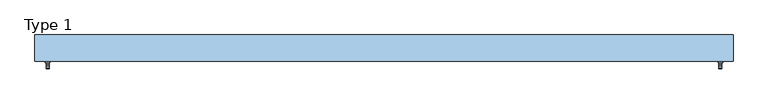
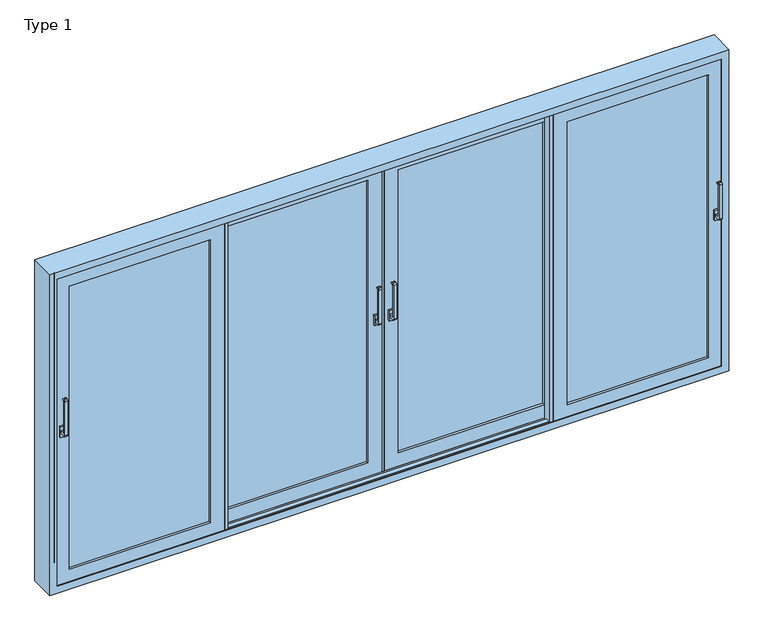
"""IFC4 building model written with IfcOpenShell, lengths in millimetres: window geometry, ETEM_E50_Quadruple_Fly Screen_Lift_Sliding : Type 1."""

from ifc_helpers import new_model, si_unit, point, frame, frame_2d, origin, place, context, project, spatial, polyline, circle_curve, ellipse_curve, trimmed, segment, composite_curve, outline, extrude, faceted_brep, source, transform, mapped, element, save
from ifc_brep_helpers import plane_surface, cylinder_surface, revolved_surface, advanced_brep


def type_1_08f03a68(model_context):
    return source(origin(), model_context, "Body", "SolidModel", [
        extrude(outline(composite_curve([segment(polyline([(-69.2, 1090.0), (-100.7736848, 1090.0)]), True, "CONTINUOUS"), segment(trimmed(circle_curve(frame_2d((-100.7736848, 1098.4263152)), 8.4263152), [point((-100.7736848, 1090.0))], [point((-109.2, 1098.4263152))], False, "CARTESIAN"), True, "CONTINUOUS"), segment(polyline([(-109.2, 1098.4263152), (-109.2, 1331.5736848)]), True, "CONTINUOUS"), segment(trimmed(circle_curve(frame_2d((-100.7736848, 1331.5736848)), 8.4263152), [point((-109.2, 1331.5736848))], [point((-100.7736848, 1340.0))], False, "CARTESIAN"), True, "CONTINUOUS"), segment(polyline([(-100.7736848, 1340.0), (-89.2, 1340.0)]), True, "CONTINUOUS"), segment(trimmed(circle_curve(frame_2d((-89.2, 1335.0)), 5.0), [point((-89.2, 1340.0))], [point((-89.2, 1330.0))], False, "CARTESIAN"), True, "CONTINUOUS"), segment(polyline([(-89.2, 1330.0), (-95.6644661, 1330.0)]), True, "CONTINUOUS"), segment(trimmed(circle_curve(frame_2d((-95.6644661, 1326.4644661)), 3.5355339), [point((-95.6644661, 1330.0))], [point((-99.2, 1326.4644661))], True, "CARTESIAN"), True, "CONTINUOUS"), segment(polyline([(-99.2, 1326.4644661), (-99.2, 1113.5355339)]), True, "CONTINUOUS"), segment(trimmed(circle_curve(frame_2d((-95.6644661, 1113.5355339)), 3.5355339), [point((-99.2, 1113.5355339))], [point((-95.6644661, 1110.0))], True, "CARTESIAN"), True, "CONTINUOUS"), segment(polyline([(-95.6644661, 1110.0), (-69.2, 1110.0), (-69.2, 1090.0)]), True, "CONTINUOUS")], self_intersect=False)), frame((2109.999965, 0.0, 0.0), z_axis=(1.0, 0.0, 0.0), x_axis=(0.0, 1.0, 0.0)), (0.0, 0.0, 1.0), 20.0),
        extrude(outline(polyline([(2104.999965, -69.2), (2104.999965, -56.2), (2134.999965, -56.2), (2134.999965, -69.2), (2104.999965, -69.2)])), frame((0.0, 0.0, 1065.0), z_axis=(0.0, 0.0, 1.0), x_axis=(1.0, 0.0, 0.0)), (0.0, 0.0, 1.0), 70.0),
        extrude(outline(composite_curve([segment(polyline([(-69.2, 1090.0), (-100.7736848, 1090.0)]), True, "CONTINUOUS"), segment(trimmed(circle_curve(frame_2d((-100.7736848, 1098.4263152)), 8.4263152), [point((-100.7736848, 1090.0))], [point((-109.2, 1098.4263152))], False, "CARTESIAN"), True, "CONTINUOUS"), segment(polyline([(-109.2, 1098.4263152), (-109.2, 1331.5736848)]), True, "CONTINUOUS"), segment(trimmed(circle_curve(frame_2d((-100.7736848, 1331.5736848)), 8.4263152), [point((-109.2, 1331.5736848))], [point((-100.7736848, 1340.0))], False, "CARTESIAN"), True, "CONTINUOUS"), segment(polyline([(-100.7736848, 1340.0), (-89.2, 1340.0)]), True, "CONTINUOUS"), segment(trimmed(circle_curve(frame_2d((-89.2, 1335.0)), 5.0), [point((-89.2, 1340.0))], [point((-89.2, 1330.0))], False, "CARTESIAN"), True, "CONTINUOUS"), segment(polyline([(-89.2, 1330.0), (-95.6644661, 1330.0)]), True, "CONTINUOUS"), segment(trimmed(circle_curve(frame_2d((-95.6644661, 1326.4644661)), 3.5355339), [point((-95.6644661, 1330.0))], [point((-99.2, 1326.4644661))], True, "CARTESIAN"), True, "CONTINUOUS"), segment(polyline([(-99.2, 1326.4644661), (-99.2, 1113.5355339)]), True, "CONTINUOUS"), segment(trimmed(circle_curve(frame_2d((-95.6644661, 1113.5355339)), 3.5355339), [point((-99.2, 1113.5355339))], [point((-95.6644661, 1110.0))], True, "CARTESIAN"), True, "CONTINUOUS"), segment(polyline([(-95.6644661, 1110.0), (-69.2, 1110.0), (-69.2, 1090.0)]), True, "CONTINUOUS")], self_intersect=False)), frame((-2129.999965, 0.0, 0.0), z_axis=(1.0, 0.0, 0.0), x_axis=(0.0, 1.0, 0.0)), (0.0, 0.0, 1.0), 20.0),
        extrude(outline(polyline([(-2134.999965, -69.2), (-2134.999965, -56.2), (-2104.999965, -56.2), (-2104.999965, -69.2), (-2134.999965, -69.2)])), frame((0.0, 0.0, 1065.0), z_axis=(0.0, 0.0, 1.0), x_axis=(1.0, 0.0, 0.0)), (0.0, 0.0, 1.0), 70.0),
        extrude(outline(composite_curve([segment(polyline([(-4.2, 1090.0), (-35.7736848, 1090.0)]), True, "CONTINUOUS"), segment(trimmed(circle_curve(frame_2d((-35.7736848, 1098.4263152)), 8.4263152), [point((-35.7736848, 1090.0))], [point((-44.2, 1098.4263152))], False, "CARTESIAN"), True, "CONTINUOUS"), segment(polyline([(-44.2, 1098.4263152), (-44.2, 1331.5736848)]), True, "CONTINUOUS"), segment(trimmed(circle_curve(frame_2d((-35.7736848, 1331.5736848)), 8.4263152), [point((-44.2, 1331.5736848))], [point((-35.7736848, 1340.0))], False, "CARTESIAN"), True, "CONTINUOUS"), segment(polyline([(-35.7736848, 1340.0), (-24.2, 1340.0)]), True, "CONTINUOUS"), segment(trimmed(circle_curve(frame_2d((-24.2, 1335.0)), 5.0), [point((-24.2, 1340.0))], [point((-24.2, 1330.0))], False, "CARTESIAN"), True, "CONTINUOUS"), segment(polyline([(-24.2, 1330.0), (-30.6644661, 1330.0)]), True, "CONTINUOUS"), segment(trimmed(circle_curve(frame_2d((-30.6644661, 1326.4644661)), 3.5355339), [point((-30.6644661, 1330.0))], [point((-34.2, 1326.4644661))], True, "CARTESIAN"), True, "CONTINUOUS"), segment(polyline([(-34.2, 1326.4644661), (-34.2, 1113.5355339)]), True, "CONTINUOUS"), segment(trimmed(circle_curve(frame_2d((-30.6644661, 1113.5355339)), 3.5355339), [point((-34.2, 1113.5355339))], [point((-30.6644661, 1110.0))], True, "CARTESIAN"), True, "CONTINUOUS"), segment(polyline([(-30.6644661, 1110.0), (-4.2, 1110.0), (-4.2, 1090.0)]), True, "CONTINUOUS")], self_intersect=False)), frame((-57.5, 0.0, 0.0), z_axis=(1.0, 0.0, 0.0), x_axis=(0.0, 1.0, 0.0)), (0.0, 0.0, 1.0), 20.0),
        extrude(outline(polyline([(-62.5, -4.2), (-62.5, 8.8), (-32.5, 8.8), (-32.5, -4.2), (-62.5, -4.2)])), frame((0.0, 0.0, 1065.0), z_axis=(0.0, 0.0, 1.0), x_axis=(1.0, 0.0, 0.0)), (0.0, 0.0, 1.0), 70.0),
        extrude(outline(composite_curve([segment(polyline([(-4.2, 1090.0), (-35.7736848, 1090.0)]), True, "CONTINUOUS"), segment(trimmed(circle_curve(frame_2d((-35.7736848, 1098.4263152)), 8.4263152), [point((-35.7736848, 1090.0))], [point((-44.2, 1098.4263152))], False, "CARTESIAN"), True, "CONTINUOUS"), segment(polyline([(-44.2, 1098.4263152), (-44.2, 1331.5736848)]), True, "CONTINUOUS"), segment(trimmed(circle_curve(frame_2d((-35.7736848, 1331.5736848)), 8.4263152), [point((-44.2, 1331.5736848))], [point((-35.7736848, 1340.0))], False, "CARTESIAN"), True, "CONTINUOUS"), segment(polyline([(-35.7736848, 1340.0), (-24.2, 1340.0)]), True, "CONTINUOUS"), segment(trimmed(circle_curve(frame_2d((-24.2, 1335.0)), 5.0), [point((-24.2, 1340.0))], [point((-24.2, 1330.0))], False, "CARTESIAN"), True, "CONTINUOUS"), segment(polyline([(-24.2, 1330.0), (-30.6644661, 1330.0)]), True, "CONTINUOUS"), segment(trimmed(circle_curve(frame_2d((-30.6644661, 1326.4644661)), 3.5355339), [point((-30.6644661, 1330.0))], [point((-34.2, 1326.4644661))], True, "CARTESIAN"), True, "CONTINUOUS"), segment(polyline([(-34.2, 1326.4644661), (-34.2, 1113.5355339)]), True, "CONTINUOUS"), segment(trimmed(circle_curve(frame_2d((-30.6644661, 1113.5355339)), 3.5355339), [point((-34.2, 1113.5355339))], [point((-30.6644661, 1110.0))], True, "CARTESIAN"), True, "CONTINUOUS"), segment(polyline([(-30.6644661, 1110.0), (-4.2, 1110.0), (-4.2, 1090.0)]), True, "CONTINUOUS")], self_intersect=False)), frame((37.5, 0.0, 0.0), z_axis=(1.0, 0.0, 0.0), x_axis=(0.0, 1.0, 0.0)), (0.0, 0.0, 1.0), 20.0),
        extrude(outline(polyline([(62.5, -4.2), (32.5, -4.2), (32.5, 8.8), (62.5, 8.8), (62.5, -4.2)])), frame((0.0, 0.0, 1065.0), z_axis=(0.0, 0.0, 1.0), x_axis=(1.0, 0.0, 0.0)), (0.0, 0.0, 1.0), 70.0),
        faceted_brep([(2200.0, 105.0, 2200.0), (2200.0, -61.8, 2200.0), (2200.0, -61.8, 0.0), (2200.0, 105.0, 0.0), (-2200.0, -61.8, 2200.0), (-2200.0, -61.8, 0.0), (2151.5, -61.8, 48.5), (-2151.5, -61.8, 48.5), (-2151.5, -61.8, 2151.5), (2151.5, -61.8, 2151.5), (-2200.0, 105.0, 0.0), (-2200.0, 105.0, 2200.0), (2180.2, 105.0, 2180.2), (-2180.2, 105.0, 2180.2), (-2180.2, 105.0, 19.8), (2180.2, 105.0, 19.8), (2178.2, 38.3, 2178.2), (2178.2, 80.2992454, 2178.2), (2178.2, 80.2992454, 21.8), (2178.2, 38.3, 21.8), (-2178.2, 80.2992454, 21.8), (-2178.2, 38.3, 21.8), (2178.2, -26.7, 2178.2), (2178.2, 29.3, 2178.2), (2178.2, 29.3, 21.8), (2178.2, -26.7, 21.8), (-2178.2, 29.3, 21.8), (-2178.2, -26.7, 21.8), (2151.5, -47.2, 2151.5), (2151.5, -15.2, 2151.5), (2151.5, -15.2, 48.5), (2151.5, -47.2, 48.5), (-2151.5, -15.2, 48.5), (-2151.5, -47.2, 48.5), (2159.5, -47.2, 2159.5), (-2159.5, -47.2, 2159.5), (-2159.5, -47.2, 40.5), (2159.5, -47.2, 40.5), (-2151.5, -47.2, 2151.5), (2159.5, -35.7, 2159.5), (2159.5, -35.7, 40.5), (-2159.5, -35.7, 40.5), (2178.2, -35.7, 2178.2), (-2178.2, -35.7, 2178.2), (-2178.2, -35.7, 21.8), (2178.2, -35.7, 21.8), (-2159.5, -35.7, 2159.5), (2178.2, -58.2, 2178.2), (2178.2, -58.2, 21.8), (-2178.2, -58.2, 21.8), (-2178.2, -58.2, 2178.2), (2151.5, -58.2, 2151.5), (-2151.5, -58.2, 2151.5), (-2151.5, -58.2, 48.5), (2151.5, -58.2, 48.5), (-2178.2, 80.2992454, 2178.2), (-2178.2, 38.3, 2178.2), (-2178.2, 29.3, 2178.2), (-2178.2, -26.7, 2178.2), (-2151.5, -15.2, 2151.5), (2159.5, 80.2992454, 40.5), (-2159.5, 80.2992454, 40.5), (-2159.5, 80.2992454, 2159.5), (2159.5, 80.2992454, 2159.5), (-2178.2, 89.2992454, 21.8), (-2178.2, 93.5, 21.8), (-2178.2, 93.5, 2178.2), (-2178.2, 89.2992454, 2178.2), (2178.2, 89.2992454, 21.8), (2178.2, 93.5, 21.8), (2178.2, 89.2992454, 2178.2), (2178.2, 93.5, 2178.2), (2159.5, 89.2992454, 2159.5), (-2159.5, 89.2992454, 2159.5), (-2159.5, 89.2992454, 40.5), (2159.5, 89.2992454, 40.5), (2159.5, 90.8, 2159.5), (2159.5, 90.8, 40.5), (-2159.5, 90.8, 40.5), (-2159.5, 90.8, 2159.5), (2151.5, 90.8, 2151.5), (-2151.5, 90.8, 2151.5), (-2151.5, 90.8, 48.5), (2151.5, 90.8, 48.5), (2151.5, 78.8, 2151.5), (2151.5, 78.8, 48.5), (-2151.5, 78.8, 48.5), (2159.5, 78.8, 2159.5), (-2159.5, 78.8, 2159.5), (-2159.5, 78.8, 40.5), (2159.5, 78.8, 40.5), (-2151.5, 78.8, 2151.5), (2159.5, 38.3, 2159.5), (-2159.5, 38.3, 2159.5), (-2159.5, 38.3, 40.5), (2159.5, 38.3, 40.5), (2159.5, 29.3, 40.5), (-2159.5, 29.3, 40.5), (-2159.5, 29.3, 2159.5), (2159.5, 29.3, 2159.5), (2159.5, -26.7, 2159.5), (-2159.5, -26.7, 2159.5), (-2159.5, -26.7, 40.5), (2159.5, -26.7, 40.5), (2159.5, -15.2, 40.5), (-2159.5, -15.2, 40.5), (-2159.5, -15.2, 2159.5), (2159.5, -15.2, 2159.5), (-2180.2, 93.5, 19.8), (-2180.2, 93.5, 2180.2), (2180.2, 93.5, 19.8), (2180.2, 93.5, 2180.2), (2159.5, 49.8, 2159.5), (2159.5, 49.8, 40.5), (-2159.5, 49.8, 40.5), (-2159.5, 49.8, 2159.5), (2151.5, 49.8, 2151.5), (-2151.5, 49.8, 2151.5), (-2151.5, 49.8, 48.5), (2151.5, 49.8, 48.5), (2151.5, 17.8, 2151.5), (2151.5, 17.8, 48.5), (-2151.5, 17.8, 48.5), (2159.5, 17.8, 2159.5), (-2159.5, 17.8, 2159.5), (-2159.5, 17.8, 40.5), (2159.5, 17.8, 40.5), (-2151.5, 17.8, 2151.5)], [[[0, 1, 2, 3]], [[1, 4, 5, 2], [6, 7, 8, 9]], [[3, 2, 5, 10]], [[3, 10, 11, 0], [12, 13, 14, 15]], [[16, 17, 18, 19]], [[19, 18, 20, 21]], [[22, 23, 24, 25]], [[25, 24, 26, 27]], [[28, 29, 30, 31]], [[31, 30, 32, 33]], [[34, 35, 36, 37], [31, 33, 38, 28]], [[39, 34, 37, 40]], [[40, 37, 36, 41]], [[42, 43, 44, 45], [40, 41, 46, 39]], [[47, 42, 45, 48]], [[48, 45, 44, 49]], [[48, 49, 50, 47], [51, 52, 53, 54]], [[9, 51, 54, 6]], [[6, 54, 53, 7]], [[10, 5, 4, 11]], [[21, 20, 55, 56]], [[27, 26, 57, 58]], [[33, 32, 59, 38]], [[41, 36, 35, 46]], [[49, 44, 43, 50]], [[7, 53, 52, 8]], [[11, 4, 1, 0]], [[56, 55, 17, 16]], [[58, 57, 23, 22]], [[38, 59, 29, 28]], [[46, 35, 34, 39]], [[50, 43, 42, 47]], [[8, 52, 51, 9]], [[17, 55, 20, 18], [60, 61, 62, 63]], [[64, 65, 66, 67]], [[68, 69, 65, 64]], [[70, 71, 69, 68]], [[68, 64, 67, 70], [72, 73, 74, 75]], [[76, 72, 75, 77]], [[77, 75, 74, 78]], [[77, 78, 79, 76], [80, 81, 82, 83]], [[84, 80, 83, 85]], [[85, 83, 82, 86]], [[87, 88, 89, 90], [85, 86, 91, 84]], [[63, 87, 90, 60]], [[60, 90, 89, 61]], [[78, 74, 73, 79]], [[86, 82, 81, 91]], [[61, 89, 88, 62]], [[67, 66, 71, 70]], [[79, 73, 72, 76]], [[91, 81, 80, 84]], [[62, 88, 87, 63]], [[19, 21, 56, 16], [92, 93, 94, 95]], [[23, 57, 26, 24], [96, 97, 98, 99]], [[25, 27, 58, 22], [100, 101, 102, 103]], [[104, 105, 106, 107], [29, 59, 32, 30]], [[108, 14, 13, 109]], [[110, 15, 14, 108]], [[111, 12, 15, 110]], [[110, 108, 109, 111], [71, 66, 65, 69]], [[112, 92, 95, 113]], [[113, 95, 94, 114]], [[113, 114, 115, 112], [116, 117, 118, 119]], [[120, 116, 119, 121]], [[121, 119, 118, 122]], [[123, 124, 125, 126], [121, 122, 127, 120]], [[99, 123, 126, 96]], [[96, 126, 125, 97]], [[107, 100, 103, 104]], [[104, 103, 102, 105]], [[114, 94, 93, 115]], [[122, 118, 117, 127]], [[97, 125, 124, 98]], [[105, 102, 101, 106]], [[115, 93, 92, 112]], [[127, 117, 116, 120]], [[98, 124, 123, 99]], [[106, 101, 100, 107]], [[109, 13, 12, 111]]]),
        faceted_brep([(1135.5, 58.8, 2160.5), (1135.5, 54.1, 2160.5), (1135.5, 54.1, 39.5), (1135.5, 58.8, 39.5), (7.0, 54.1, 2160.5), (7.0, 54.1, 39.5), (1106.3, 54.1, 68.7), (36.2, 54.1, 68.7), (36.2, 54.1, 2131.3), (1106.3, 54.1, 2131.3), (7.0, 58.8, 39.5), (7.0, 58.8, 2160.5), (1044.0, 58.8, 2069.0), (98.5, 58.8, 2069.0), (98.5, 58.8, 131.0), (1044.0, 58.8, 131.0), (1044.0, 8.8, 2069.0), (1044.0, 8.8, 131.0), (98.5, 8.8, 131.0), (1135.5, 8.8, 2160.5), (7.0, 8.8, 2160.5), (7.0, 8.8, 39.5), (1135.5, 8.8, 39.5), (98.5, 8.8, 2069.0), (1135.5, 13.5, 2160.5), (1135.5, 13.5, 39.5), (7.0, 13.5, 39.5), (7.0, 13.5, 2160.5), (1106.3, 13.5, 2131.3), (36.2, 13.5, 2131.3), (36.2, 13.5, 68.7), (1106.3, 13.5, 68.7)], [[[0, 1, 2, 3]], [[1, 4, 5, 2], [6, 7, 8, 9]], [[3, 2, 5, 10]], [[3, 10, 11, 0], [12, 13, 14, 15]], [[16, 12, 15, 17]], [[17, 15, 14, 18]], [[19, 20, 21, 22], [17, 18, 23, 16]], [[24, 19, 22, 25]], [[25, 22, 21, 26]], [[25, 26, 27, 24], [28, 29, 30, 31]], [[9, 28, 31, 6]], [[6, 31, 30, 7]], [[10, 5, 4, 11]], [[18, 14, 13, 23]], [[26, 21, 20, 27]], [[7, 30, 29, 8]], [[11, 4, 1, 0]], [[23, 13, 12, 16]], [[27, 20, 19, 24]], [[8, 29, 28, 9]]]),
        extrude(outline(polyline([(1156.0, -2.2), (1135.5, -2.2), (1135.5, 58.8), (1156.0, 58.8), (1156.0, -2.2)])), frame((0.0, 0.0, 39.5), z_axis=(0.0, 0.0, 1.0), x_axis=(1.0, 0.0, 0.0)), (0.0, 0.0, 1.0), 2121.0),
        extrude(outline(polyline([(1044.0, 4.8), (1064.5, 4.8), (1064.5, -56.2), (1044.0, -56.2), (1044.0, 4.8)])), frame((0.0, 0.0, 39.5), z_axis=(0.0, 0.0, 1.0), x_axis=(1.0, 0.0, 0.0)), (0.0, 0.0, 1.0), 2121.0),
        extrude(outline(polyline([(98.5, 50.8), (1044.0, 50.8), (1044.0, 45.8), (98.5, 45.8), (98.5, 50.8)])), frame((0.0, 0.0, 131.0), z_axis=(0.0, 0.0, 1.0), x_axis=(1.0, 0.0, 0.0)), (0.0, 0.0, 1.0), 1938.0),
        extrude(outline(polyline([(1156.0, -14.2), (2068.999965, -14.2), (2068.999965, -19.2), (1156.0, -19.2), (1156.0, -14.2)])), frame((0.0, 0.0, 131.0), z_axis=(0.0, 0.0, 1.0), x_axis=(1.0, 0.0, 0.0)), (0.0, 0.0, 1.0), 1938.0),
        extrude(outline(polyline([(98.5, 29.8), (1044.0, 29.8), (1044.0, 24.8), (98.5, 24.8), (98.5, 29.8)])), frame((0.0, 0.0, 131.0), z_axis=(0.0, 0.0, 1.0), x_axis=(1.0, 0.0, 0.0)), (0.0, 0.0, 1.0), 1938.0),
        extrude(outline(polyline([(1156.0, -35.2), (2068.999965, -35.2), (2068.999965, -40.2), (1156.0, -40.2), (1156.0, -35.2)])), frame((0.0, 0.0, 131.0), z_axis=(0.0, 0.0, 1.0), x_axis=(1.0, 0.0, 0.0)), (0.0, 0.0, 1.0), 1938.0),
        faceted_brep([(-7.0, 13.5, 2160.5), (-7.0, 8.8, 2160.5), (-7.0, 8.8, 39.5), (-7.0, 13.5, 39.5), (-1135.5, 8.8, 2160.5), (-1135.5, 8.8, 39.5), (-98.5, 8.8, 131.0), (-1044.0, 8.8, 131.0), (-1044.0, 8.8, 2069.0), (-98.5, 8.8, 2069.0), (-1135.5, 13.5, 39.5), (-1135.5, 13.5, 2160.5), (-36.2, 13.5, 2131.3), (-1106.3, 13.5, 2131.3), (-1106.3, 13.5, 68.7), (-36.2, 13.5, 68.7), (-36.2, 54.1, 2131.3), (-36.2, 54.1, 68.7), (-1106.3, 54.1, 68.7), (-7.0, 54.1, 2160.5), (-1135.5, 54.1, 2160.5), (-1135.5, 54.1, 39.5), (-7.0, 54.1, 39.5), (-1106.3, 54.1, 2131.3), (-7.0, 58.8, 2160.5), (-7.0, 58.8, 39.5), (-1135.5, 58.8, 39.5), (-1135.5, 58.8, 2160.5), (-98.5, 58.8, 2069.0), (-1044.0, 58.8, 2069.0), (-1044.0, 58.8, 131.0), (-98.5, 58.8, 131.0)], [[[0, 1, 2, 3]], [[1, 4, 5, 2], [6, 7, 8, 9]], [[3, 2, 5, 10]], [[3, 10, 11, 0], [12, 13, 14, 15]], [[16, 12, 15, 17]], [[17, 15, 14, 18]], [[19, 20, 21, 22], [17, 18, 23, 16]], [[24, 19, 22, 25]], [[25, 22, 21, 26]], [[25, 26, 27, 24], [28, 29, 30, 31]], [[9, 28, 31, 6]], [[6, 31, 30, 7]], [[10, 5, 4, 11]], [[18, 14, 13, 23]], [[26, 21, 20, 27]], [[7, 30, 29, 8]], [[11, 4, 1, 0]], [[23, 13, 12, 16]], [[27, 20, 19, 24]], [[8, 29, 28, 9]]]),
        extrude(outline(polyline([(-1044.0, 50.8), (-98.5, 50.8), (-98.5, 45.8), (-1044.0, 45.8), (-1044.0, 50.8)])), frame((0.0, 0.0, 131.0), z_axis=(0.0, 0.0, 1.0), x_axis=(1.0, 0.0, 0.0)), (0.0, 0.0, 1.0), 1938.0),
        extrude(outline(polyline([(-1044.0, 29.8), (-98.5, 29.8), (-98.5, 24.8), (-1044.0, 24.8), (-1044.0, 29.8)])), frame((0.0, 0.0, 131.0), z_axis=(0.0, 0.0, 1.0), x_axis=(1.0, 0.0, 0.0)), (0.0, 0.0, 1.0), 1938.0),
        faceted_brep([(-1156.0, -56.2, 2069.0), (-1156.0, -6.2, 2069.0), (-1156.0, -6.2, 131.0), (-1156.0, -56.2, 131.0), (-2068.999965, -6.2, 131.0), (-2068.999965, -56.2, 131.0), (-2160.499965, -6.2, 39.5), (-2160.499965, -6.2, 2160.5), (-1064.5, -6.2, 2160.5), (-1064.5, -6.2, 39.5), (-2068.999965, -6.2, 2069.0), (-2068.999965, -56.2, 2069.0), (-1064.5, -56.2, 39.5), (-1064.5, -56.2, 2160.5), (-2160.499965, -56.2, 2160.5), (-2160.499965, -56.2, 39.5), (-1064.5, -51.5, 2160.5), (-1064.5, -51.5, 39.5), (-2160.499965, -51.5, 39.5), (-2160.499965, -51.5, 2160.5), (-1093.7, -51.5, 68.7), (-1093.7, -51.5, 2131.3), (-2131.299965, -51.5, 2131.3), (-2131.299965, -51.5, 68.7), (-1093.7, -10.9, 2131.3), (-1093.7, -10.9, 68.7), (-2131.299965, -10.9, 68.7), (-2131.299965, -10.9, 2131.3), (-1064.5, -10.9, 39.5), (-1064.5, -10.9, 2160.5), (-2160.499965, -10.9, 2160.5), (-2160.499965, -10.9, 39.5)], [[[0, 1, 2, 3]], [[3, 2, 4, 5]], [[6, 7, 8, 9], [2, 1, 10, 4]], [[5, 4, 10, 11]], [[12, 13, 14, 15], [5, 11, 0, 3]], [[16, 13, 12, 17]], [[17, 12, 15, 18]], [[18, 15, 14, 19]], [[18, 19, 16, 17], [20, 21, 22, 23]], [[24, 21, 20, 25]], [[25, 20, 23, 26]], [[26, 23, 22, 27]], [[28, 29, 30, 31], [26, 27, 24, 25]], [[8, 29, 28, 9]], [[9, 28, 31, 6]], [[6, 31, 30, 7]], [[11, 10, 1, 0]], [[19, 14, 13, 16]], [[27, 22, 21, 24]], [[7, 30, 29, 8]]]),
        extrude(outline(polyline([(-1044.0, 4.8), (-1044.0, -56.2), (-1064.5, -56.2), (-1064.5, 4.8), (-1044.0, 4.8)])), frame((0.0, 0.0, 39.5), z_axis=(0.0, 0.0, 1.0), x_axis=(1.0, 0.0, 0.0)), (0.0, 0.0, 1.0), 2121.0),
        extrude(outline(polyline([(-1156.0, -2.2), (-1156.0, 58.8), (-1135.5, 58.8), (-1135.5, -2.2), (-1156.0, -2.2)])), frame((0.0, 0.0, 39.5), z_axis=(0.0, 0.0, 1.0), x_axis=(1.0, 0.0, 0.0)), (0.0, 0.0, 1.0), 2121.0),
        extrude(outline(polyline([(-2068.999965, -14.2), (-1156.0, -14.2), (-1156.0, -19.2), (-2068.999965, -19.2), (-2068.999965, -14.2)])), frame((0.0, 0.0, 131.0), z_axis=(0.0, 0.0, 1.0), x_axis=(1.0, 0.0, 0.0)), (0.0, 0.0, 1.0), 1938.0),
        extrude(outline(polyline([(-2068.999965, -35.2), (-1156.0, -35.2), (-1156.0, -40.2), (-2068.999965, -40.2), (-2068.999965, -35.2)])), frame((0.0, 0.0, 131.0), z_axis=(0.0, 0.0, 1.0), x_axis=(1.0, 0.0, 0.0)), (0.0, 0.0, 1.0), 1938.0),
        extrude(outline(polyline([(3.5, 17.8), (3.5, 8.8), (-7.0, 8.8), (-7.0, 58.8), (3.5, 58.8), (3.5, 49.8), (16.0497482, 49.8), (16.0497482, 17.8), (3.5, 17.8)])), frame((0.0, 0.0, 39.5188293), z_axis=(0.0, 0.0, 1.0), x_axis=(1.0, 0.0, 0.0)), (0.0, 0.0, 1.0), 2120.9623414),
        faceted_brep([(2068.999965, -56.2, 2069.0), (2068.999965, -6.2, 2069.0), (2068.999965, -6.2, 131.0), (2068.999965, -56.2, 131.0), (1156.0, -6.2, 131.0), (1156.0, -56.2, 131.0), (1064.5, -6.2, 39.5), (1064.5, -6.2, 2160.5), (2160.499965, -6.2, 2160.5), (2160.499965, -6.2, 39.5), (1156.0, -6.2, 2069.0), (1156.0, -56.2, 2069.0), (2160.499965, -56.2, 39.5), (2160.499965, -56.2, 2160.5), (1064.5, -56.2, 2160.5), (1064.5, -56.2, 39.5), (2160.499965, -51.5, 2160.5), (2160.499965, -51.5, 39.5), (1064.5, -51.5, 39.5), (1064.5, -51.5, 2160.5), (2131.299965, -51.5, 68.7), (2131.299965, -51.5, 2131.3), (1093.7, -51.5, 2131.3), (1093.7, -51.5, 68.7), (2131.299965, -10.9, 2131.3), (2131.299965, -10.9, 68.7), (1093.7, -10.9, 68.7), (1093.7, -10.9, 2131.3), (2160.499965, -10.9, 39.5), (2160.499965, -10.9, 2160.5), (1064.5, -10.9, 2160.5), (1064.5, -10.9, 39.5)], [[[0, 1, 2, 3]], [[3, 2, 4, 5]], [[6, 7, 8, 9], [2, 1, 10, 4]], [[5, 4, 10, 11]], [[12, 13, 14, 15], [5, 11, 0, 3]], [[16, 13, 12, 17]], [[17, 12, 15, 18]], [[18, 15, 14, 19]], [[18, 19, 16, 17], [20, 21, 22, 23]], [[24, 21, 20, 25]], [[25, 20, 23, 26]], [[26, 23, 22, 27]], [[28, 29, 30, 31], [26, 27, 24, 25]], [[8, 29, 28, 9]], [[9, 28, 31, 6]], [[6, 31, 30, 7]], [[11, 10, 1, 0]], [[19, 14, 13, 16]], [[27, 22, 21, 24]], [[7, 30, 29, 8]]]),
        extrude(outline(polyline([(-2089.499965, 74.8), (-1152.0, 74.8), (-1152.0, 73.8), (-2089.499965, 73.8), (-2089.499965, 74.8)])), frame((0.0, 0.0, 110.5), z_axis=(0.0, 0.0, 1.0), x_axis=(1.0, 0.0, 0.0)), (0.0, 0.0, 1.0), 1979.0),
        advanced_brep(
        [(-1148.6, 71.8, 2092.9), (-1148.6, 74.8, 2092.9), (-1148.6, 74.8, 107.1), (-1148.6, 71.8, 107.1), (-2092.899965, 74.8, 2092.9), (-2092.899965, 74.8, 107.1), (-1156.0, 74.8, 114.5), (-2085.499965, 74.8, 114.5), (-2085.499965, 74.8, 2085.5), (-1156.0, 74.8, 2085.5), (-2092.899965, 71.8, 107.1), (-1146.8, 71.8, 2094.7), (-2094.699965, 71.8, 2094.7), (-2094.699965, 71.8, 105.3), (-1146.8, 71.8, 105.3), (-2092.899965, 71.8, 2092.9), (-1146.8543214, 72.9975359, 2094.6456786), (-1146.8543214, 72.9975359, 105.3543214), (-2094.6456436, 72.9975359, 105.3543214), (-1147.4, 73.5, 2094.1), (-1147.4, 73.5, 105.9), (-2094.099965, 73.5, 105.9), (-1147.4, 80.1, 2094.1), (-1147.4, 80.1, 105.9), (-2094.099965, 80.1, 105.9), (-1127.2, 80.1, 2114.3), (-2114.299965, 80.1, 2114.3), (-2114.299965, 80.1, 85.7), (-1127.2, 80.1, 85.7), (-2094.099965, 80.1, 2094.1), (-1127.2, 71.8, 2114.3), (-1127.2, 71.8, 85.7), (-2114.299965, 71.8, 85.7), (-1084.0, 71.8, 2157.5), (-2157.499965, 71.8, 2157.5), (-2157.499965, 71.8, 42.5), (-1084.0, 71.8, 42.5), (-2114.299965, 71.8, 2114.3), (-1081.0, 73.1542487, 2160.5), (-1081.0, 73.1542487, 39.5), (-2160.499965, 73.1542487, 39.5), (-1081.0, 76.3, 2160.5), (-1081.0, 76.3, 39.5), (-2160.499965, 76.3, 39.5), (-2160.499965, 76.3, 2160.5), (-1091.3, 76.3, 2150.2), (-2150.199965, 76.3, 2150.2), (-2150.199965, 76.3, 49.8), (-1091.3, 76.3, 49.8), (-1091.3, 93.3, 2150.2), (-1091.3, 93.3, 49.8), (-2150.199965, 93.3, 49.8), (-1081.0, 93.3, 2160.5), (-2160.499965, 93.3, 2160.5), (-2160.499965, 93.3, 39.5), (-1081.0, 93.3, 39.5), (-2150.199965, 93.3, 2150.2), (-1081.0, 96.4457513, 2160.5), (-1081.0, 96.4457513, 39.5), (-2160.499965, 96.4457513, 39.5), (-1084.0, 97.8, 2157.5), (-1084.0, 97.8, 42.5), (-2157.499965, 97.8, 42.5), (-2157.499965, 97.8, 2157.5), (-1127.2, 97.8, 2114.3), (-2114.299965, 97.8, 2114.3), (-2114.299965, 97.8, 85.7), (-1127.2, 97.8, 85.7), (-1127.2, 89.5, 2114.3), (-1127.2, 89.5, 85.7), (-2114.299965, 89.5, 85.7), (-2114.299965, 89.5, 2114.3), (-1153.6, 89.5, 2087.9), (-2087.899965, 89.5, 2087.9), (-2087.899965, 89.5, 112.1), (-1153.6, 89.5, 112.1), (-1154.8, 90.7, 2086.7), (-1154.8, 90.7, 113.3), (-2086.699965, 90.7, 113.3), (-1154.8, 93.8, 2086.7), (-1154.8, 93.8, 113.3), (-2086.699965, 93.8, 113.3), (-1152.4941176, 96.5560566, 2089.0058824), (-1152.4941176, 96.5560566, 110.9941176), (-2089.0058474, 96.5560566, 110.9941176), (-1152.7058823, 97.7372237, 2088.7941177), (-1152.7058823, 97.7372237, 111.2058823), (-2088.7940826, 97.7372237, 111.2058823), (-1156.0, 93.8, 2085.5), (-1156.0, 93.8, 114.5), (-2085.499965, 93.8, 114.5), (-2094.6456436, 72.9975359, 2094.6456786), (-2094.099965, 73.5, 2094.1), (-2160.499965, 73.1542487, 2160.5), (-2160.499965, 96.4457513, 2160.5), (-2086.699965, 90.7, 2086.7), (-2086.699965, 93.8, 2086.7), (-2089.0058474, 96.5560566, 2089.0058824), (-2088.7940826, 97.7372237, 2088.7941177), (-2085.499965, 93.8, 2085.5)],
        [
            (0, 1),
            (1, 2),
            (2, 3),
            (3, 0),
            (1, 4),
            (4, 5),
            (5, 2),
            (6, 7),
            (7, 8),
            (8, 9),
            (9, 6),
            (5, 10),
            (10, 3),
            (11, 12),
            (12, 13),
            (13, 14),
            (14, 11),
            (10, 15),
            (15, 0),
            (16, 11, ellipse_curve(frame((-1146.8, 72.4, 2094.7), z_axis=(0.7071067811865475, 0.0, -0.7071067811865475), x_axis=(0.7071067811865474, 0.0, 0.7071067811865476)), 0.8485281, 0.6)),
            (14, 17, ellipse_curve(frame((-1146.8, 72.4, 105.3), z_axis=(0.7071067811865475, 0.0, 0.7071067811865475), x_axis=(-0.7071067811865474, 0.0, 0.7071067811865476)), 0.8485281, 0.6)),
            (17, 16),
            (13, 18, ellipse_curve(frame((-2094.699965, 72.4, 105.3), z_axis=(0.7071067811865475, 0.0, -0.7071067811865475), x_axis=(0.7071067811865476, 0.0, 0.7071067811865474)), 0.8485281, 0.6)),
            (18, 17),
            (19, 16, ellipse_curve(frame((-1146.9, 73.5, 2094.6), z_axis=(-0.7071067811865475, 0.0, 0.7071067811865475), x_axis=(-0.7071067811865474, 0.0, -0.7071067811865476)), 0.7071068, 0.5)),
            (17, 20, ellipse_curve(frame((-1146.9, 73.5, 105.4), z_axis=(-0.7071067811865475, 0.0, -0.7071067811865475), x_axis=(0.7071067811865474, 0.0, -0.7071067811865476)), 0.7071068, 0.5)),
            (20, 19),
            (18, 21, ellipse_curve(frame((-2094.599965, 73.5, 105.4), z_axis=(-0.7071067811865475, 0.0, 0.7071067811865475), x_axis=(-0.7071067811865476, 0.0, -0.7071067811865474)), 0.7071068, 0.5)),
            (21, 20),
            (22, 19),
            (20, 23),
            (23, 22),
            (21, 24),
            (24, 23),
            (25, 26),
            (26, 27),
            (27, 28),
            (28, 25),
            (24, 29),
            (29, 22),
            (30, 25),
            (28, 31),
            (31, 30),
            (27, 32),
            (32, 31),
            (33, 34),
            (34, 35),
            (35, 36),
            (36, 33),
            (32, 37),
            (37, 30),
            (38, 33, ellipse_curve(frame((-1084.0, 75.8, 2157.5), z_axis=(0.7071067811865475, 0.0, -0.7071067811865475), x_axis=(0.7071067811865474, 0.0, 0.7071067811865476)), 5.6568542, 4.0)),
            (36, 39, ellipse_curve(frame((-1084.0, 75.8, 42.5), z_axis=(0.7071067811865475, 0.0, 0.7071067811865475), x_axis=(-0.7071067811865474, 0.0, 0.7071067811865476)), 5.6568542, 4.0)),
            (39, 38),
            (35, 40, ellipse_curve(frame((-2157.499965, 75.8, 42.5), z_axis=(0.7071067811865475, 0.0, -0.7071067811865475), x_axis=(0.7071067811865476, 0.0, 0.7071067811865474)), 5.6568542, 4.0)),
            (40, 39),
            (41, 38),
            (39, 42),
            (42, 41),
            (40, 43),
            (43, 42),
            (43, 44),
            (44, 41),
            (45, 46),
            (46, 47),
            (47, 48),
            (48, 45),
            (49, 45),
            (48, 50),
            (50, 49),
            (47, 51),
            (51, 50),
            (52, 53),
            (53, 54),
            (54, 55),
            (55, 52),
            (51, 56),
            (56, 49),
            (57, 52),
            (55, 58),
            (58, 57),
            (54, 59),
            (59, 58),
            (60, 57, ellipse_curve(frame((-1084.0, 93.8, 2157.5), z_axis=(0.7071067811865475, 0.0, -0.7071067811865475), x_axis=(0.7071067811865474, 0.0, 0.7071067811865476)), 5.6568542, 4.0)),
            (58, 61, ellipse_curve(frame((-1084.0, 93.8, 42.5), z_axis=(0.7071067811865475, 0.0, 0.7071067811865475), x_axis=(-0.7071067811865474, 0.0, 0.7071067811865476)), 5.6568542, 4.0)),
            (61, 60),
            (59, 62, ellipse_curve(frame((-2157.499965, 93.8, 42.5), z_axis=(0.7071067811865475, 0.0, -0.7071067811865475), x_axis=(0.7071067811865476, 0.0, 0.7071067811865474)), 5.6568542, 4.0)),
            (62, 61),
            (62, 63),
            (63, 60),
            (64, 65),
            (65, 66),
            (66, 67),
            (67, 64),
            (68, 64),
            (67, 69),
            (69, 68),
            (66, 70),
            (70, 69),
            (70, 71),
            (71, 68),
            (72, 73),
            (73, 74),
            (74, 75),
            (75, 72),
            (76, 72, ellipse_curve(frame((-1153.6, 90.7, 2087.9), z_axis=(-0.7071067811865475, 0.0, 0.7071067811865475), x_axis=(-0.7071067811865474, 0.0, -0.7071067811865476)), 1.6970563, 1.2)),
            (75, 77, ellipse_curve(frame((-1153.6, 90.7, 112.1), z_axis=(-0.7071067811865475, 0.0, -0.7071067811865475), x_axis=(0.7071067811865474, 0.0, -0.7071067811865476)), 1.6970563, 1.2)),
            (77, 76),
            (74, 78, ellipse_curve(frame((-2087.899965, 90.7, 112.1), z_axis=(-0.7071067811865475, 0.0, 0.7071067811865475), x_axis=(-0.7071067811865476, 0.0, -0.7071067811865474)), 1.6970563, 1.2)),
            (78, 77),
            (79, 76),
            (77, 80),
            (80, 79),
            (78, 81),
            (81, 80),
            (82, 79, ellipse_curve(frame((-1152.0, 93.8, 2089.5), z_axis=(-0.7071067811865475, 0.0, 0.7071067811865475), x_axis=(-0.7071067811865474, 0.0, -0.7071067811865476)), 3.959798, 2.8)),
            (80, 83, ellipse_curve(frame((-1152.0, 93.8, 110.5), z_axis=(-0.7071067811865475, 0.0, -0.7071067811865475), x_axis=(0.7071067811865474, 0.0, -0.7071067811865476)), 3.959798, 2.8)),
            (83, 82),
            (81, 84, ellipse_curve(frame((-2089.499965, 93.8, 110.5), z_axis=(-0.7071067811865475, 0.0, 0.7071067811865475), x_axis=(-0.7071067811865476, 0.0, -0.7071067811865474)), 3.959798, 2.8)),
            (84, 83),
            (85, 82, ellipse_curve(frame((-1152.6, 97.1466401, 2088.9), z_axis=(0.7071067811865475, 0.0, -0.7071067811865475), x_axis=(0.7071067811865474, 0.0, 0.7071067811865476)), 0.8485281, 0.6)),
            (83, 86, ellipse_curve(frame((-1152.6, 97.1466401, 111.1), z_axis=(0.7071067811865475, 0.0, 0.7071067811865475), x_axis=(-0.7071067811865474, 0.0, 0.7071067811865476)), 0.8485281, 0.6)),
            (86, 85),
            (84, 87, ellipse_curve(frame((-2088.899965, 97.1466401, 111.1), z_axis=(0.7071067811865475, 0.0, -0.7071067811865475), x_axis=(0.7071067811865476, 0.0, 0.7071067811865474)), 0.8485281, 0.6)),
            (87, 86),
            (88, 85, ellipse_curve(frame((-1152.0, 93.8, 2089.5), z_axis=(0.7071067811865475, 0.0, -0.7071067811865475), x_axis=(0.7071067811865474, 0.0, 0.7071067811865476)), 5.6568542, 4.0)),
            (86, 89, ellipse_curve(frame((-1152.0, 93.8, 110.5), z_axis=(0.7071067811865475, 0.0, 0.7071067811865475), x_axis=(-0.7071067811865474, 0.0, 0.7071067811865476)), 5.6568542, 4.0)),
            (89, 88),
            (87, 90, ellipse_curve(frame((-2089.499965, 93.8, 110.5), z_axis=(0.7071067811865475, 0.0, -0.7071067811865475), x_axis=(0.7071067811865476, 0.0, 0.7071067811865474)), 5.6568542, 4.0)),
            (90, 89),
            (9, 88),
            (89, 6),
            (90, 7),
            (4, 15),
            (12, 91, ellipse_curve(frame((-2094.699965, 72.4, 2094.7), z_axis=(-0.7071067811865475, 0.0, -0.7071067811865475), x_axis=(0.7071067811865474, 0.0, -0.7071067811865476)), 0.8485281, 0.6)),
            (91, 18),
            (91, 92, ellipse_curve(frame((-2094.599965, 73.5, 2094.6), z_axis=(0.7071067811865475, 0.0, 0.7071067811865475), x_axis=(-0.7071067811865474, 0.0, 0.7071067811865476)), 0.7071068, 0.5)),
            (92, 21),
            (92, 29),
            (26, 37),
            (34, 93, ellipse_curve(frame((-2157.499965, 75.8, 2157.5), z_axis=(-0.7071067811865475, 0.0, -0.7071067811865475), x_axis=(0.7071067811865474, 0.0, -0.7071067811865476)), 5.6568542, 4.0)),
            (93, 40),
            (93, 44),
            (46, 56),
            (53, 94),
            (94, 59),
            (94, 63, ellipse_curve(frame((-2157.499965, 93.8, 2157.5), z_axis=(-0.7071067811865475, 0.0, -0.7071067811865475), x_axis=(0.7071067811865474, 0.0, -0.7071067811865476)), 5.6568542, 4.0)),
            (65, 71),
            (73, 95, ellipse_curve(frame((-2087.899965, 90.7, 2087.9), z_axis=(0.7071067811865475, 0.0, 0.7071067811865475), x_axis=(-0.7071067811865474, 0.0, 0.7071067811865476)), 1.6970563, 1.2)),
            (95, 78),
            (95, 96),
            (96, 81),
            (96, 97, ellipse_curve(frame((-2089.499965, 93.8, 2089.5), z_axis=(0.7071067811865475, 0.0, 0.7071067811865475), x_axis=(-0.7071067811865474, 0.0, 0.7071067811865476)), 3.959798, 2.8)),
            (97, 84),
            (97, 98, ellipse_curve(frame((-2088.899965, 97.1466401, 2088.9), z_axis=(-0.7071067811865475, 0.0, -0.7071067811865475), x_axis=(0.7071067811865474, 0.0, -0.7071067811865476)), 0.8485281, 0.6)),
            (98, 87),
            (98, 99, ellipse_curve(frame((-2089.499965, 93.8, 2089.5), z_axis=(-0.7071067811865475, 0.0, -0.7071067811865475), x_axis=(0.7071067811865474, 0.0, -0.7071067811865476)), 5.6568542, 4.0)),
            (99, 90),
            (99, 8),
            (16, 91),
            (19, 92),
            (38, 93),
            (57, 94),
            (76, 95),
            (79, 96),
            (82, 97),
            (85, 98),
            (88, 99),
        ],
        [
            plane_surface(frame((-1148.6, 74.8, 2092.9), z_axis=(-1.0, 0.0, 0.0), x_axis=(0.0, 0.0, -1.0))),
            plane_surface(frame((-2085.499965, 74.8, 2085.5), z_axis=(0.0, -1.0, 0.0), x_axis=(1.0, 0.0, 0.0))),
            plane_surface(frame((-1148.6, 74.8, 107.1), z_axis=(0.0, 0.0, 1.0), x_axis=(-1.0, 0.0, 0.0))),
            plane_surface(frame((-2092.899965, 71.8, 2092.9), z_axis=(0.0, -1.0, 0.0), x_axis=(1.0, 0.0, 0.0))),
            cylinder_surface(frame((-1146.8, 72.4, 2160.5), z_axis=(0.0, 0.0, 1.0), x_axis=(-1.0, 0.0, 0.0)), 0.6),
            cylinder_surface(frame((-1081.0, 72.4, 105.3), z_axis=(1.0, 0.0, 0.0), x_axis=(0.0, 0.0, 1.0)), 0.6),
            revolved_surface(polyline([(-1147.4, 73.5, 104.89999998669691), (-1147.4, 73.5, 2095.100000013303)]), (-1146.9, 73.5, 2160.5), (0.0, 0.0, -1.0)),
            revolved_surface(polyline([(-2095.099965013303, 73.5, 105.9), (-1146.399999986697, 73.5, 105.9)]), (-1081.0, 73.5, 105.4), (-1.0, 0.0, 0.0)),
            plane_surface(frame((-1147.4, 73.5, 2094.1), z_axis=(1.0, 0.0, 0.0), x_axis=(0.0, 0.0, -1.0))),
            plane_surface(frame((-1147.4, 73.5, 105.9), z_axis=(0.0, 0.0, -1.0), x_axis=(-1.0, 0.0, 0.0))),
            plane_surface(frame((-2094.099965, 80.1, 2094.1), z_axis=(0.0, -1.0, 0.0), x_axis=(1.0, 0.0, 0.0))),
            plane_surface(frame((-1127.2, 80.1, 2114.3), z_axis=(-1.0, 0.0, 0.0), x_axis=(0.0, 0.0, -1.0))),
            plane_surface(frame((-1127.2, 80.1, 85.7), z_axis=(0.0, 0.0, 1.0), x_axis=(-1.0, 0.0, 0.0))),
            plane_surface(frame((-2114.299965, 71.8, 2114.3), z_axis=(0.0, -1.0, 0.0), x_axis=(1.0, 0.0, 0.0))),
            cylinder_surface(frame((-1084.0, 75.8, 2160.5), z_axis=(0.0, 0.0, 1.0), x_axis=(-1.0, 0.0, 0.0)), 4.0),
            cylinder_surface(frame((-1081.0, 75.8, 42.5), z_axis=(1.0, 0.0, 0.0), x_axis=(0.0, 0.0, 1.0)), 4.0),
            plane_surface(frame((-1081.0, 73.1542487, 2160.5), z_axis=(1.0, 0.0, 0.0), x_axis=(0.0, 0.0, -1.0))),
            plane_surface(frame((-1081.0, 73.1542487, 39.5), z_axis=(0.0, 0.0, -1.0), x_axis=(-1.0, 0.0, 0.0))),
            plane_surface(frame((-2160.499965, 76.3, 2160.5), z_axis=(0.0, 1.0, 0.0), x_axis=(1.0, 0.0, 0.0))),
            plane_surface(frame((-1091.3, 76.3, 2150.2), z_axis=(1.0, 0.0, 0.0), x_axis=(0.0, 0.0, -1.0))),
            plane_surface(frame((-1091.3, 76.3, 49.8), z_axis=(0.0, 0.0, -1.0), x_axis=(-1.0, 0.0, 0.0))),
            plane_surface(frame((-2150.199965, 93.3, 2150.2), z_axis=(0.0, -1.0, 0.0), x_axis=(1.0, 0.0, 0.0))),
            plane_surface(frame((-1081.0, 93.3, 2160.5), z_axis=(1.0, 0.0, 0.0), x_axis=(0.0, 0.0, -1.0))),
            plane_surface(frame((-1081.0, 93.3, 39.5), z_axis=(0.0, 0.0, -1.0), x_axis=(-1.0, 0.0, 0.0))),
            cylinder_surface(frame((-1084.0, 93.8, 2160.5), z_axis=(0.0, 0.0, 1.0), x_axis=(-1.0, 0.0, 0.0)), 4.0),
            cylinder_surface(frame((-1081.0, 93.8, 42.5), z_axis=(1.0, 0.0, 0.0), x_axis=(0.0, 0.0, 1.0)), 4.0),
            plane_surface(frame((-2157.499965, 97.8, 2157.5), z_axis=(0.0, 1.0, 0.0), x_axis=(1.0, 0.0, 0.0))),
            plane_surface(frame((-1127.2, 97.8, 2114.3), z_axis=(-1.0, 0.0, 0.0), x_axis=(0.0, 0.0, -1.0))),
            plane_surface(frame((-1127.2, 97.8, 85.7), z_axis=(0.0, 0.0, 1.0), x_axis=(-1.0, 0.0, 0.0))),
            plane_surface(frame((-2114.299965, 89.5, 2114.3), z_axis=(0.0, 1.0, 0.0), x_axis=(1.0, 0.0, 0.0))),
            revolved_surface(polyline([(-1154.8, 90.7, 110.89999998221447), (-1154.8, 90.7, 2089.1000000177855)]), (-1153.6, 90.7, 2160.5), (0.0, 0.0, -1.0)),
            revolved_surface(polyline([(-2089.0999650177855, 90.7, 113.3), (-1152.3999999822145, 90.7, 113.3)]), (-1081.0, 90.7, 112.1), (-1.0, 0.0, 0.0)),
            plane_surface(frame((-1154.8, 90.7, 2086.7), z_axis=(1.0, 0.0, 0.0), x_axis=(0.0, 0.0, -1.0))),
            plane_surface(frame((-1154.8, 90.7, 113.3), z_axis=(0.0, 0.0, -1.0), x_axis=(-1.0, 0.0, 0.0))),
            revolved_surface(polyline([(-1154.8, 93.8, 107.69999998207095), (-1154.8, 93.8, 2092.300000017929)]), (-1152.0, 93.8, 2160.5), (0.0, 0.0, -1.0)),
            revolved_surface(polyline([(-2092.299965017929, 93.8, 113.3), (-1149.1999999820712, 93.8, 113.3)]), (-1081.0, 93.8, 110.5), (-1.0, 0.0, 0.0)),
            cylinder_surface(frame((-1152.6, 97.1466401, 2160.5), z_axis=(0.0, 0.0, 1.0), x_axis=(-1.0, 0.0, 0.0)), 0.6),
            cylinder_surface(frame((-1081.0, 97.1466401, 111.1), z_axis=(1.0, 0.0, 0.0), x_axis=(0.0, 0.0, 1.0)), 0.6),
            cylinder_surface(frame((-1152.0, 93.8, 2160.5), z_axis=(0.0, 0.0, 1.0), x_axis=(-1.0, 0.0, 0.0)), 4.0),
            cylinder_surface(frame((-1081.0, 93.8, 110.5), z_axis=(1.0, 0.0, 0.0), x_axis=(0.0, 0.0, 1.0)), 4.0),
            plane_surface(frame((-1156.0, 93.8, 2085.5), z_axis=(-1.0, 0.0, 0.0), x_axis=(0.0, 0.0, -1.0))),
            plane_surface(frame((-1156.0, 93.8, 114.5), z_axis=(0.0, 0.0, 1.0), x_axis=(-1.0, 0.0, 0.0))),
            plane_surface(frame((-2092.899965, 74.8, 107.1), z_axis=(1.0, 0.0, 0.0), x_axis=(0.0, 0.0, 1.0))),
            cylinder_surface(frame((-2094.699965, 72.4, 39.5), z_axis=(0.0, 0.0, -1.0), x_axis=(1.0, 0.0, 0.0)), 0.6),
            revolved_surface(polyline([(-2094.099965, 73.5, 2095.100000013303), (-2094.099965, 73.5, 104.89999998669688)]), (-2094.599965, 73.5, 39.5), (0.0, 0.0, 1.0)),
            plane_surface(frame((-2094.099965, 73.5, 105.9), z_axis=(-1.0, 0.0, 0.0), x_axis=(0.0, 0.0, 1.0))),
            plane_surface(frame((-2114.299965, 80.1, 85.7), z_axis=(1.0, 0.0, 0.0), x_axis=(0.0, 0.0, 1.0))),
            cylinder_surface(frame((-2157.499965, 75.8, 39.5), z_axis=(0.0, 0.0, -1.0), x_axis=(1.0, 0.0, 0.0)), 4.0),
            plane_surface(frame((-2160.499965, 73.1542487, 39.5), z_axis=(-1.0, 0.0, 0.0), x_axis=(0.0, 0.0, 1.0))),
            plane_surface(frame((-2150.199965, 76.3, 49.8), z_axis=(-1.0, 0.0, 0.0), x_axis=(0.0, 0.0, 1.0))),
            plane_surface(frame((-2160.499965, 93.3, 39.5), z_axis=(-1.0, 0.0, 0.0), x_axis=(0.0, 0.0, 1.0))),
            cylinder_surface(frame((-2157.499965, 93.8, 39.5), z_axis=(0.0, 0.0, -1.0), x_axis=(1.0, 0.0, 0.0)), 4.0),
            plane_surface(frame((-2114.299965, 97.8, 85.7), z_axis=(1.0, 0.0, 0.0), x_axis=(0.0, 0.0, 1.0))),
            revolved_surface(polyline([(-2086.6999650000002, 90.7, 2089.1000000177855), (-2086.6999650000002, 90.7, 110.89999998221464)]), (-2087.899965, 90.7, 39.5), (0.0, 0.0, 1.0)),
            plane_surface(frame((-2086.699965, 90.7, 113.3), z_axis=(-1.0, 0.0, 0.0), x_axis=(0.0, 0.0, 1.0))),
            revolved_surface(polyline([(-2086.699965, 93.8, 2092.300000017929), (-2086.699965, 93.8, 107.69999998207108)]), (-2089.499965, 93.8, 39.5), (0.0, 0.0, 1.0)),
            cylinder_surface(frame((-2088.899965, 97.1466401, 39.5), z_axis=(0.0, 0.0, -1.0), x_axis=(1.0, 0.0, 0.0)), 0.6),
            cylinder_surface(frame((-2089.499965, 93.8, 39.5), z_axis=(0.0, 0.0, -1.0), x_axis=(1.0, 0.0, 0.0)), 4.0),
            plane_surface(frame((-2085.499965, 93.8, 114.5), z_axis=(1.0, 0.0, 0.0), x_axis=(0.0, 0.0, 1.0))),
            plane_surface(frame((-2092.899965, 74.8, 2092.9), z_axis=(0.0, 0.0, -1.0), x_axis=(1.0, 0.0, 0.0))),
            cylinder_surface(frame((-2160.499965, 72.4, 2094.7), z_axis=(-1.0, 0.0, 0.0), x_axis=(0.0, 0.0, -1.0)), 0.6),
            revolved_surface(polyline([(-1146.399999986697, 73.5, 2094.1), (-2095.099965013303, 73.5, 2094.1)]), (-2160.499965, 73.5, 2094.6), (1.0, 0.0, 0.0)),
            plane_surface(frame((-2094.099965, 73.5, 2094.1), z_axis=(0.0, 0.0, 1.0), x_axis=(1.0, 0.0, 0.0))),
            plane_surface(frame((-2114.299965, 80.1, 2114.3), z_axis=(0.0, 0.0, -1.0), x_axis=(1.0, 0.0, 0.0))),
            cylinder_surface(frame((-2160.499965, 75.8, 2157.5), z_axis=(-1.0, 0.0, 0.0), x_axis=(0.0, 0.0, -1.0)), 4.0),
            plane_surface(frame((-2160.499965, 73.1542487, 2160.5), z_axis=(0.0, 0.0, 1.0), x_axis=(1.0, 0.0, 0.0))),
            plane_surface(frame((-2150.199965, 76.3, 2150.2), z_axis=(0.0, 0.0, 1.0), x_axis=(1.0, 0.0, 0.0))),
            plane_surface(frame((-2160.499965, 93.3, 2160.5), z_axis=(0.0, 0.0, 1.0), x_axis=(1.0, 0.0, 0.0))),
            cylinder_surface(frame((-2160.499965, 93.8, 2157.5), z_axis=(-1.0, 0.0, 0.0), x_axis=(0.0, 0.0, -1.0)), 4.0),
            plane_surface(frame((-2114.299965, 97.8, 2114.3), z_axis=(0.0, 0.0, -1.0), x_axis=(1.0, 0.0, 0.0))),
            revolved_surface(polyline([(-1152.3999999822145, 90.7, 2086.7000000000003), (-2089.0999650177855, 90.7, 2086.7000000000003)]), (-2160.499965, 90.7, 2087.9), (1.0, 0.0, 0.0)),
            plane_surface(frame((-2086.699965, 90.7, 2086.7), z_axis=(0.0, 0.0, 1.0), x_axis=(1.0, 0.0, 0.0))),
            revolved_surface(polyline([(-1149.199999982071, 93.8, 2086.7), (-2092.299965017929, 93.8, 2086.7)]), (-2160.499965, 93.8, 2089.5), (1.0, 0.0, 0.0)),
            cylinder_surface(frame((-2160.499965, 97.1466401, 2088.9), z_axis=(-1.0, 0.0, 0.0), x_axis=(0.0, 0.0, -1.0)), 0.6),
            cylinder_surface(frame((-2160.499965, 93.8, 2089.5), z_axis=(-1.0, 0.0, 0.0), x_axis=(0.0, 0.0, -1.0)), 4.0),
            plane_surface(frame((-2085.499965, 93.8, 2085.5), z_axis=(0.0, 0.0, -1.0), x_axis=(1.0, 0.0, 0.0))),
        ],
        [
            (0, [[1, 2, 3, 4]]),
            (1, [[5, 6, 7, -2], [8, 9, 10, 11]]),
            (2, [[-3, -7, 12, 13]]),
            (3, [[14, 15, 16, 17], [-13, 18, 19, -4]]),
            (4, [[20, -17, 21, 22]]),
            (5, [[-21, -16, 23, 24]]),
            (6, [[25, -22, 26, 27]]),
            (7, [[-26, -24, 28, 29]]),
            (8, [[30, -27, 31, 32]]),
            (9, [[-31, -29, 33, 34]]),
            (10, [[35, 36, 37, 38], [-34, 39, 40, -32]]),
            (11, [[41, -38, 42, 43]]),
            (12, [[-42, -37, 44, 45]]),
            (13, [[46, 47, 48, 49], [-45, 50, 51, -43]]),
            (14, [[52, -49, 53, 54]]),
            (15, [[-53, -48, 55, 56]]),
            (16, [[57, -54, 58, 59]]),
            (17, [[-58, -56, 60, 61]]),
            (18, [[-61, 62, 63, -59], [64, 65, 66, 67]]),
            (19, [[68, -67, 69, 70]]),
            (20, [[-69, -66, 71, 72]]),
            (21, [[73, 74, 75, 76], [-72, 77, 78, -70]]),
            (22, [[79, -76, 80, 81]]),
            (23, [[-80, -75, 82, 83]]),
            (24, [[84, -81, 85, 86]]),
            (25, [[-85, -83, 87, 88]]),
            (26, [[-88, 89, 90, -86], [91, 92, 93, 94]]),
            (27, [[95, -94, 96, 97]]),
            (28, [[-96, -93, 98, 99]]),
            (29, [[-99, 100, 101, -97], [102, 103, 104, 105]]),
            (30, [[106, -105, 107, 108]]),
            (31, [[-107, -104, 109, 110]]),
            (32, [[111, -108, 112, 113]]),
            (33, [[-112, -110, 114, 115]]),
            (34, [[116, -113, 117, 118]]),
            (35, [[-117, -115, 119, 120]]),
            (36, [[121, -118, 122, 123]]),
            (37, [[-122, -120, 124, 125]]),
            (38, [[126, -123, 127, 128]]),
            (39, [[-127, -125, 129, 130]]),
            (40, [[131, -128, 132, -11]]),
            (41, [[-132, -130, 133, -8]]),
            (42, [[-12, -6, 134, -18]]),
            (43, [[-23, -15, 135, 136]]),
            (44, [[-28, -136, 137, 138]]),
            (45, [[-33, -138, 139, -39]]),
            (46, [[-44, -36, 140, -50]]),
            (47, [[-55, -47, 141, 142]]),
            (48, [[-60, -142, 143, -62]]),
            (49, [[-71, -65, 144, -77]]),
            (50, [[-82, -74, 145, 146]]),
            (51, [[-87, -146, 147, -89]]),
            (52, [[-98, -92, 148, -100]]),
            (53, [[-109, -103, 149, 150]]),
            (54, [[-114, -150, 151, 152]]),
            (55, [[-119, -152, 153, 154]]),
            (56, [[-124, -154, 155, 156]]),
            (57, [[-129, -156, 157, 158]]),
            (58, [[-133, -158, 159, -9]]),
            (59, [[-134, -5, -1, -19]]),
            (60, [[-135, -14, -20, 160]]),
            (61, [[-137, -160, -25, 161]]),
            (62, [[-139, -161, -30, -40]]),
            (63, [[-140, -35, -41, -51]]),
            (64, [[-141, -46, -52, 162]]),
            (65, [[-143, -162, -57, -63]]),
            (66, [[-144, -64, -68, -78]]),
            (67, [[-145, -73, -79, 163]]),
            (68, [[-147, -163, -84, -90]]),
            (69, [[-148, -91, -95, -101]]),
            (70, [[-149, -102, -106, 164]]),
            (71, [[-151, -164, -111, 165]]),
            (72, [[-153, -165, -116, 166]]),
            (73, [[-155, -166, -121, 167]]),
            (74, [[-157, -167, -126, 168]]),
            (75, [[-159, -168, -131, -10]]),
        ],
    ),
    ])


if __name__ == "__main__":
    model = new_model("IFC4")
    model_context = context("Model", 3, world=origin())
    ifc_project = project(units=[si_unit("LENGTHUNIT", "METRE", prefix="MILLI")], contexts=[model_context])
    site = spatial("IfcSite", under=ifc_project)
    building = spatial("IfcBuilding", under=site)
    placement = place(None, origin())
    type_1_shape = type_1_08f03a68(model_context)
    element("IfcWindow", 1, ObjectType="ETEM_E50_Quadruple_Fly Screen_Lift_Sliding : Type 1", at=placement, inside=building, context=model_context, shape_type="MappedRepresentation", body=[
        mapped(type_1_shape, transform((0.0, 0.0, 0.0), x_axis=(1.0, 0.0, 0.0), y_axis=(0.0, 1.0, 0.0), z_axis=(0.0, 0.0, 1.0))),
    ])
    save(model, "model.ifc")
